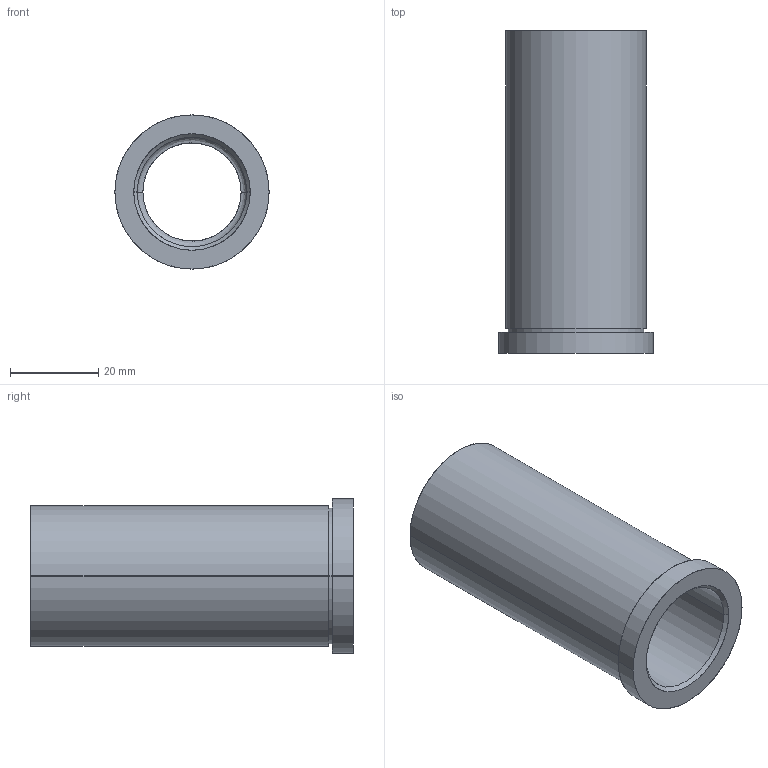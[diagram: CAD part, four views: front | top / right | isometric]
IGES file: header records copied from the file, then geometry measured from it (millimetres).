
Start section: SolidWorks IGES file using analytic representation for surfaces
Global section: file name: C:\Users\Ryan\Documents\PCS\Shoulder Bushings\BU-204.igs; native system: SolidWorks 2009; preprocessor: SolidWorks 2009; author: Ryan; date: 140226.220500; units: inch
Bounding box: 34.92 x 73.03 x 34.92 mm (x, y, z)
Surface area: 13777.2 mm2 (no closed solid volume)
Topology: 0 solids, 0 shells, 20 faces, 512 edges, 512 vertices
Faces by surface type: revolution 12, bspline 8
